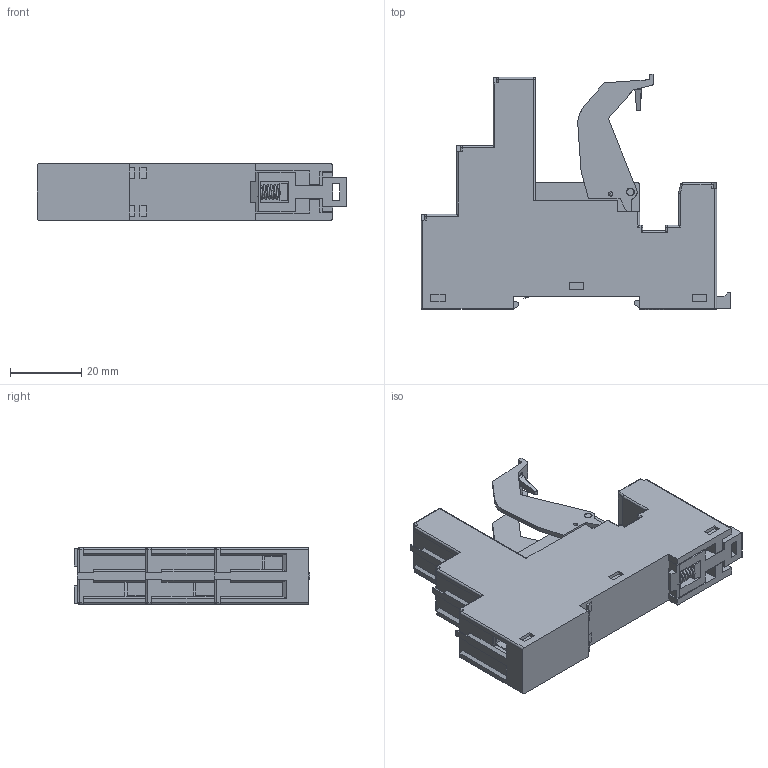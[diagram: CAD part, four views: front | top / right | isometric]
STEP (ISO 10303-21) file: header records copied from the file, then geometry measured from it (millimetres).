
FILE_DESCRIPTION(('STEP AP214'),'2;1');
FILE_NAME('9701+09701_catalogo.stp','2011-01-05T08:45:20',(''),(''),'2007.1.106','THINKDESIGN','');
FILE_SCHEMA(('AUTOMOTIVE_DESIGN'));
Length unit declared in the file: millimetre
Products named in the file (1): None
Bounding box: 86.85 x 66.04 x 15.8 mm (x, y, z)
Surface area: 17671.4 mm2 (no closed solid volume)
Topology: 0 solids, 0 shells, 646 faces, 3611 edges, 3593 vertices
Faces by surface type: plane 478, cylinder 107, bspline 61
Full cylindrical faces by diameter (mm): 1.2 x2, 2 x3, 2.2 x2, 3.2 x1, 4.7 x5, 5 x5
Entity records: 36812 total; most frequent: CARTESIAN_POINT 10474, DIRECTION 4615, COMPOSITE_CURVE_SEGMENT 3593, TRIMMED_CURVE 3223, VECTOR 3001, LINE 3001, AXIS2_PLACEMENT_3D 807, OUTER_BOUNDARY_CURVE 646
